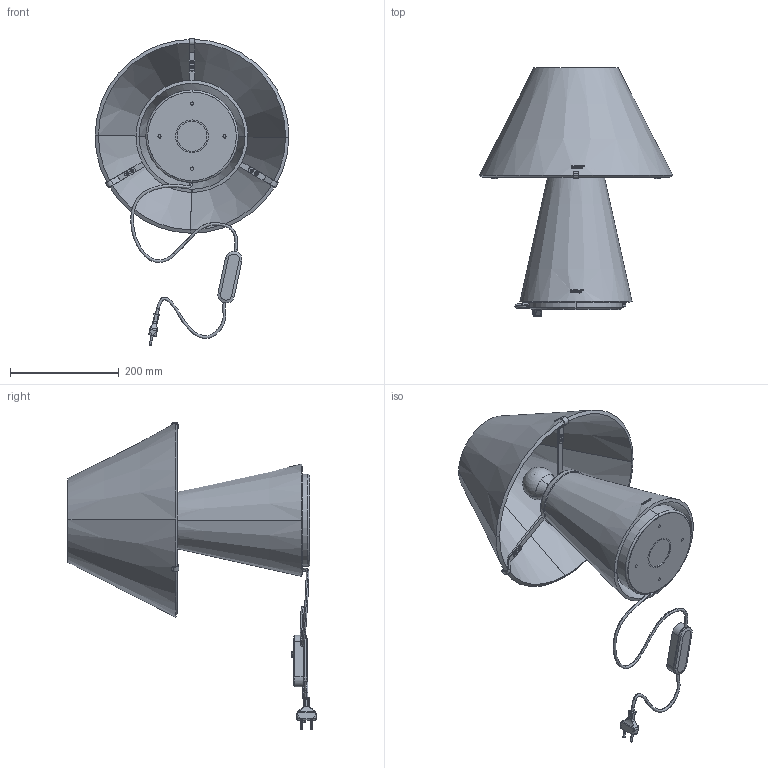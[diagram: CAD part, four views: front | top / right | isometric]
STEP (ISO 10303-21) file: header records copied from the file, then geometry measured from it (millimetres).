
FILE_DESCRIPTION (( 'STEP AP203' ), '1' );
FILE_NAME ('UpGlas Table 2.STEP', '2025-06-05T07:53:36', ( '' ), ( '' ), 'SwSTEP 2.0', 'SolidWorks 2024', '' );
FILE_SCHEMA (( 'CONFIG_CONTROL_DESIGN' ));
Length unit declared in the file: millimetre
Products named in the file (17): ATC-A07-T005-R02; Viti a Testa Bombata e Cava Esagonale ISO-7380_VITE M3X6 TBCE ISO-7380 ; ATC-A07-T009-R01; ATC-A07-T080-R00_Default<A macchina>; Portalampada a Scatto  - Arditi E27 210°C_R. NERO; ATC-A07-T001-R00; Camicia E27 a Scatto - Arditi_R. NERO; UpGlas Table 2; ATC-A07-T100-R02; Lamp. E27 Led Parathon Retrofit CL A_LAMPADINA E27 CL A 60 6W 827; ATC-A07-T082-R00; Ghiera Ø50 h.12 per Portalampada E27; Vite a Testa Svasata Piana Cava Esagonale UNI-5933_VITE M3X6 TSPCE UNI-5933; ATC-A07-S100-R04; ATC-A07-T101-R02; ATC-A07-T002-R00_Default<A macchina>; ATC-A07-T006-R01
Assembly tree (29 placements, depth 3):
  UpGlas Table 2
    Portalampada a Scatto  - Arditi E27 210°C_R. NERO
      Camicia E27 a Scatto - Arditi_R. NERO
    Lamp. E27 Led Parathon Retrofit CL A_LAMPADINA E27 CL A 60 6W 827
    Vite a Testa Svasata Piana Cava Esagonale UNI-5933_VITE M3X6 TSPCE UNI-5933  x10
    Viti a Testa Bombata e Cava Esagonale ISO-7380_VITE M3X6 TBCE ISO-7380   x2
    Ghiera Ø50 h.12 per Portalampada E27
    ATC-A07-T002-R00_Default<A macchina>
    ATC-A07-T001-R00
    ATC-A07-T080-R00_Default<A macchina>
    ATC-A07-T009-R01
    ATC-A07-T005-R02
    ATC-A07-T006-R01  x3
    ATC-A07-T100-R02  x2
    ATC-A07-T101-R02
    ATC-A07-T082-R00
    ATC-A07-S100-R04
Bounding box: 356.74 x 456.38 x 565.4 mm (x, y, z)
Volume: 2198199.8 mm3; surface area: 861929.4 mm2
Topology: 41 solids, 42 shells, 1299 faces, 3173 edges, 2005 vertices
Faces by surface type: plane 547, cylinder 355, bspline 184, cone 141, torus 60, sphere 12
Entity records: 77182 total; most frequent: CARTESIAN_POINT 51810, ORIENTED_EDGE 5202, DIRECTION 4271, EDGE_CURVE 2601, VERTEX_POINT 1667, AXIS2_PLACEMENT_3D 1491, LINE 1289, VECTOR 1289
